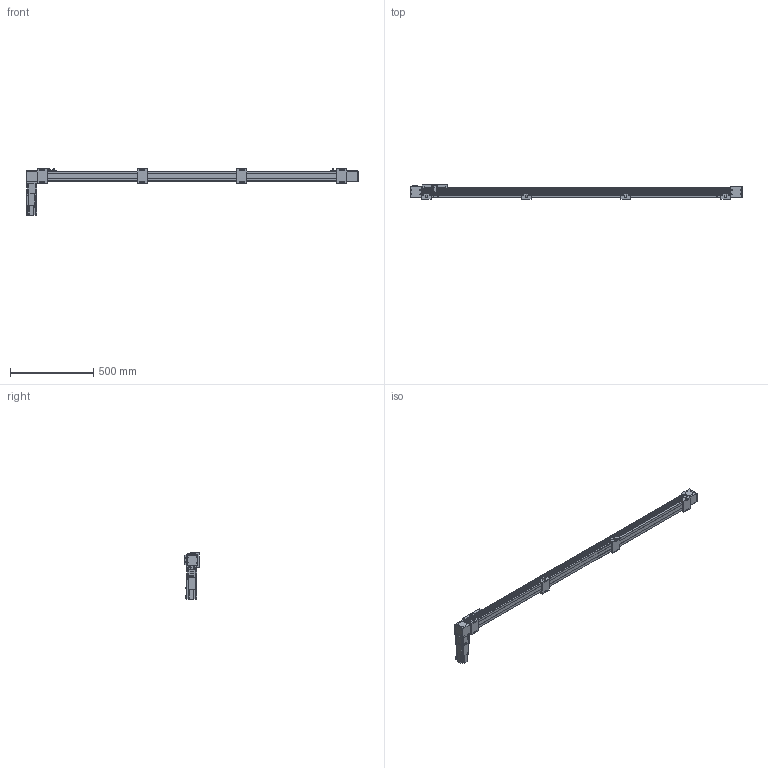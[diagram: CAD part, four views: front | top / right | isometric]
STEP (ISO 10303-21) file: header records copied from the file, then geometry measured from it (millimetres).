
FILE_DESCRIPTION(/* description */ ('STEP AP203'),/* implementation_level */ '2;1');
FILE_NAME(/* name */ 'SK60-P13-S1700-BR-T40-C1-N(0)',/* time_stamp */ '2023-04-06T04:00:19+02:00',/* author */ ('License CC BY-ND 4.0'),/* organization */ ('CADENAS'),/* preprocessor_version */ 'ST-DEVELOPER v19.3',/* originating_system */ 'PARTsolutions',/* authorisation */ ' ');
FILE_SCHEMA (('CONFIG_CONTROL_DESIGN'));
Length unit declared in the file: millimetre
Products named in the file (11): SK60-P13-S1700-BR-T40-C1-N(0); PSC140-sensor; SK60-S450_seat; SK60-S450-BL-C1_slider; SK60_body3; SK60_body6; SK60-BL_body2; T40-p1; SK60_body5; SK60_body4; SK60-S1700-BR-C1_body
Assembly tree (19 placements, depth 2):
  SK60-P13-S1700-BR-T40-C1-N(0)
    PSC140-sensor  x3
    SK60-S450_seat  x4
    SK60-S450-BL-C1_slider
    SK60_body3  x3
    SK60_body6  x2
    SK60-BL_body2  x2
    T40-p1
    SK60_body5
    SK60_body4
    SK60-S1700-BR-C1_body
Bounding box: 2000 x 90 x 279.1 mm (x, y, z)
Volume: 7408255.8 mm3; surface area: 940808.8 mm2
Topology: 19 solids, 23 shells, 922 faces, 2305 edges, 1522 vertices
Faces by surface type: plane 592, cylinder 298, cone 30, torus 2
Full cylindrical faces by diameter (mm): 2.8 x3, 3.3 x4, 4.2 x8, 4.5 x26, 4.6 x3, 4.917 x24, 5 x2, 5.478 x4, 5.5 x27, 6.5 x8, 8 x4, 8.5 x4, 9.988 x4, 10 x16, 13.556 x1, 14 x1, 14.586 x1, 19.692 x1, 38.432 x2, 43 x1, 44 x3, 47 x2, 50 x2
Entity records: 19387 total; most frequent: DIRECTION 3296, CARTESIAN_POINT 3291, ORIENTED_EDGE 3050, EDGE_CURVE 1525, AXIS2_PLACEMENT_3D 1102, LINE 1092, VECTOR 1092, VERTEX_POINT 1077
